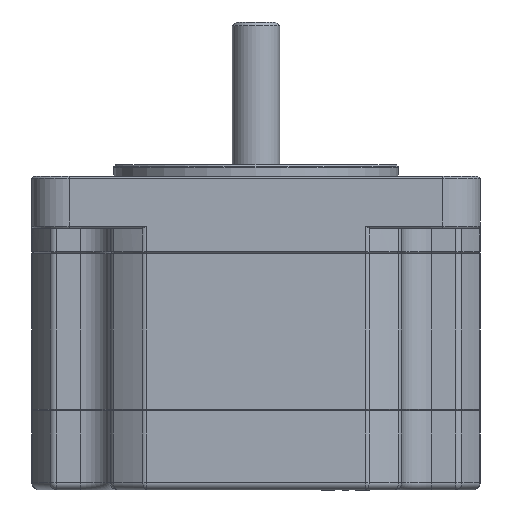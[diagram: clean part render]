
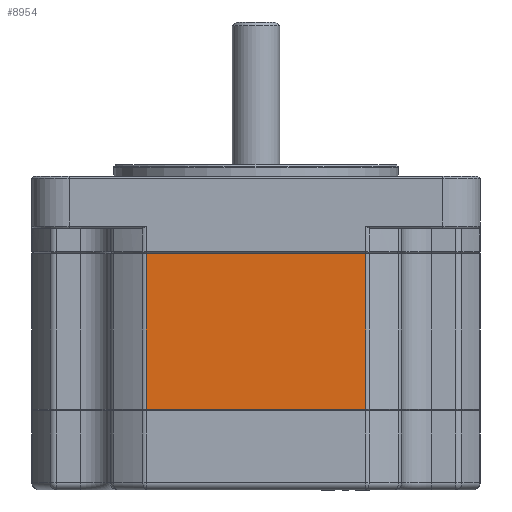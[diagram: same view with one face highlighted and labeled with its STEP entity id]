
A CAD part, front view. The second image highlights one B-rep face of the part: STEP entity #8954.
In plain terms, the highlighted planar face has unit normal (0, -1, 0).
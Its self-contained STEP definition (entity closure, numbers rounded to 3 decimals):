
#340 = ORIENTED_EDGE ( 'NONE', *, *, #13336, .F. ) ;
#857 = CARTESIAN_POINT ( 'NONE',  ( -14.671, -30., -31.4 ) ) ;
#2045 = VECTOR ( 'NONE', #3865, 1000. ) ;
#2929 = VECTOR ( 'NONE', #10789, 1000. ) ;
#2961 = CARTESIAN_POINT ( 'NONE',  ( 14.671, -30., -10.4 ) ) ;
#3514 = DIRECTION ( 'NONE',  ( 0., 0., 1. ) ) ;
#3865 = DIRECTION ( 'NONE',  ( 0., 0., 1. ) ) ;
#4040 = VECTOR ( 'NONE', #3514, 1000. ) ;
#4075 = CARTESIAN_POINT ( 'NONE',  ( 14.671, -30., -31.2 ) ) ;
#5321 = CARTESIAN_POINT ( 'NONE',  ( -14.671, -30., -10.4 ) ) ;
#6044 = CARTESIAN_POINT ( 'NONE',  ( 14.671, -30., -31.4 ) ) ;
#6310 = CARTESIAN_POINT ( 'NONE',  ( 14.671, -30., -31.2 ) ) ;
#6539 = VERTEX_POINT ( 'NONE', #14973 ) ;
#6915 = LINE ( 'NONE', #6310, #2929 ) ;
#7044 = ORIENTED_EDGE ( 'NONE', *, *, #18416, .T. ) ;
#7599 = DIRECTION ( 'NONE',  ( 0., 0., 1. ) ) ;
#7735 = VECTOR ( 'NONE', #16428, 1000. ) ;
#8954 = ADVANCED_FACE ( 'NONE', ( #18146 ), #15042, .F. ) ;
#8964 = VERTEX_POINT ( 'NONE', #10573 ) ;
#9012 = AXIS2_PLACEMENT_3D ( 'NONE', #6044, #16552, #7599 ) ;
#10496 = EDGE_LOOP ( 'NONE', ( #340, #14548, #11485, #7044 ) ) ;
#10573 = CARTESIAN_POINT ( 'NONE',  ( -14.671, -30., -31.2 ) ) ;
#10789 = DIRECTION ( 'NONE',  ( 1., 0., 0. ) ) ;
#11485 = ORIENTED_EDGE ( 'NONE', *, *, #16374, .T. ) ;
#11697 = LINE ( 'NONE', #2961, #7735 ) ;
#12452 = CARTESIAN_POINT ( 'NONE',  ( 14.671, -30., -31.4 ) ) ;
#13336 = EDGE_CURVE ( 'NONE', #8964, #15040, #14910, .T. ) ;
#14266 = VERTEX_POINT ( 'NONE', #4075 ) ;
#14548 = ORIENTED_EDGE ( 'NONE', *, *, #14873, .T. ) ;
#14873 = EDGE_CURVE ( 'NONE', #8964, #14266, #6915, .T. ) ;
#14910 = LINE ( 'NONE', #857, #2045 ) ;
#14973 = CARTESIAN_POINT ( 'NONE',  ( 14.671, -30., -10.4 ) ) ;
#15040 = VERTEX_POINT ( 'NONE', #5321 ) ;
#15042 = PLANE ( 'NONE',  #9012 ) ;
#15968 = LINE ( 'NONE', #12452, #4040 ) ;
#16374 = EDGE_CURVE ( 'NONE', #14266, #6539, #15968, .T. ) ;
#16428 = DIRECTION ( 'NONE',  ( -1., 0., 0. ) ) ;
#16552 = DIRECTION ( 'NONE',  ( 0., 1., 0. ) ) ;
#18146 = FACE_OUTER_BOUND ( 'NONE', #10496, .T. ) ;
#18416 = EDGE_CURVE ( 'NONE', #6539, #15040, #11697, .T. ) ;
